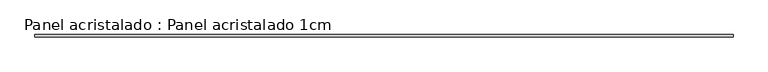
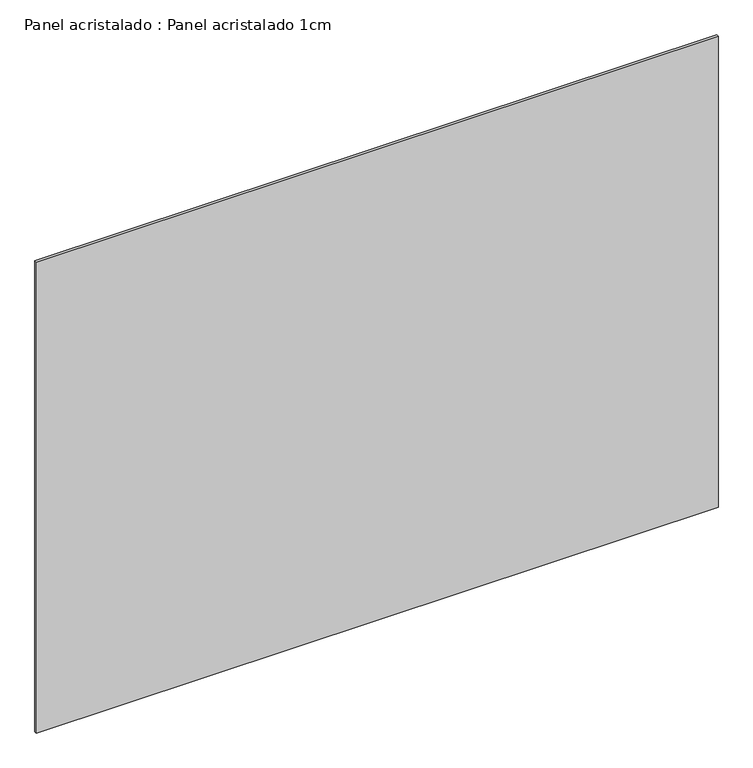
"""IFC4 building model written with IfcOpenShell, lengths in millimetres: plate geometry, Panel acristalado : Panel acristalado 1cm."""

from ifc_helpers import new_model, si_unit, origin, origin_with_axes, place, context, project, spatial, polyline, outline, extrude, source, transform, mapped, element, save


def panel_acristalado_panel_acristalado_1cm_17b08142(model_context):
    return source(origin(), model_context, "Body", "SweptSolid", [
        extrude(outline(polyline([(1437.5, -20.0), (1437.5, -30.0), (-1437.5, -30.0), (-1437.5, -20.0), (1437.5, -20.0)])), origin_with_axes(), (0.0, 0.0, 1.0), 2100.0),
    ])


if __name__ == "__main__":
    model = new_model("IFC4")
    model_context = context("Model", 3, world=origin())
    ifc_project = project(units=[si_unit("LENGTHUNIT", "METRE", prefix="MILLI")], contexts=[model_context])
    site = spatial("IfcSite", under=ifc_project)
    building = spatial("IfcBuilding", under=site)
    placement = place(None, origin())
    panel_acristalado_panel_acristalado_1cm_shape = panel_acristalado_panel_acristalado_1cm_17b08142(model_context)
    element("IfcPlate", 1, ObjectType="Panel acristalado : Panel acristalado 1cm", at=placement, inside=building, context=model_context, shape_type="MappedRepresentation", body=[
        mapped(panel_acristalado_panel_acristalado_1cm_shape, transform((0.0, 0.0, 0.0), x_axis=(1.0, 0.0, 0.0), y_axis=(0.0, 1.0, 0.0), z_axis=(0.0, 0.0, 1.0))),
    ])
    save(model, "model.ifc")
